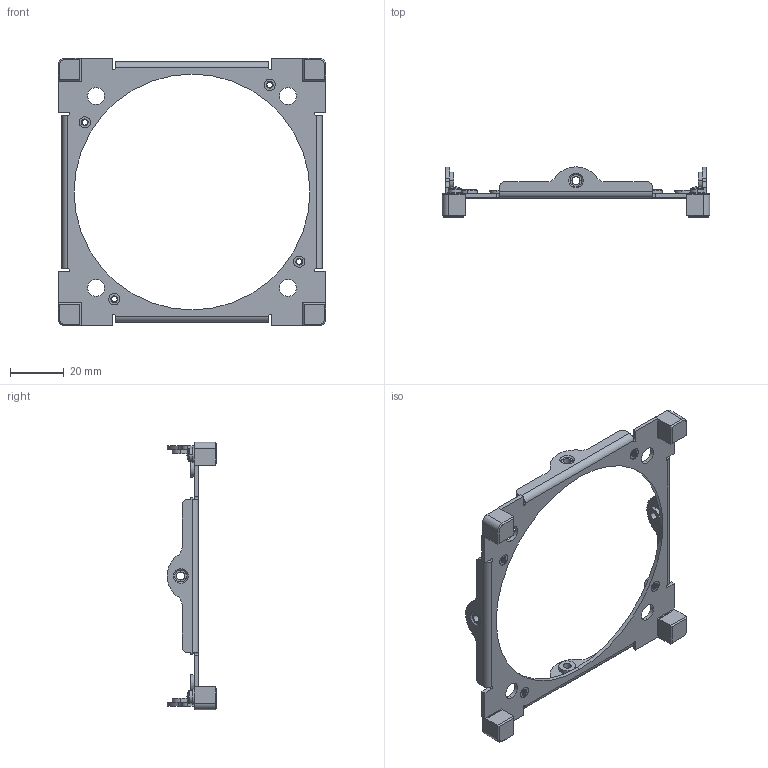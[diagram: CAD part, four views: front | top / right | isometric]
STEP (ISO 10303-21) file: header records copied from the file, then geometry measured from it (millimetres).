
FILE_DESCRIPTION (( 'STEP AP214' ), '1' );
FILE_NAME ('710-00784-A0 Cover Plate, ANTS.STEP', '2017-11-14T02:12:49', ( '' ), ( '' ), 'SwSTEP 2.0', 'SolidWorks 2014', '' );
FILE_SCHEMA (( 'AUTOMOTIVE_DESIGN' ));
Length unit declared in the file: inch
Products named in the file (2): 710-00784-A0 Cover Plate, ANTS
Bounding box: 100 x 18.58 x 100 mm (x, y, z)
Volume: 9241.1 mm3; surface area: 12461 mm2
Topology: 1 solids, 41 shells, 907 faces, 2083 edges, 1226 vertices
Faces by surface type: cone 340, cylinder 281, plane 270, torus 8, sphere 8
Entity records: 27278 total; most frequent: DIRECTION 4899, CARTESIAN_POINT 4218, ORIENTED_EDGE 4166, EDGE_CURVE 2083, AXIS2_PLACEMENT_3D 1907, VERTEX_POINT 1226, VECTOR 1085, LINE 1085
